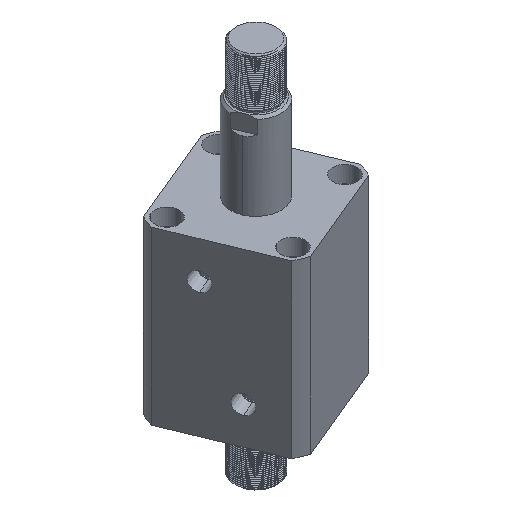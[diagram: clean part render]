
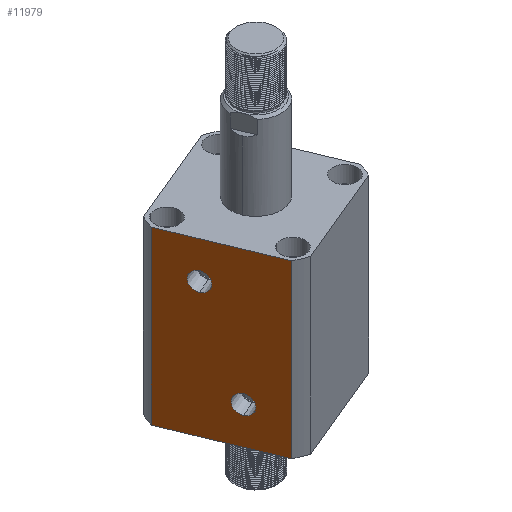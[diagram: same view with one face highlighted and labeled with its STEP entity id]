
A CAD part, isometric view. The second image highlights one B-rep face of the part: STEP entity #11979.
In plain terms, the highlighted planar face has unit normal (-0.924, -0.383, 0) as drawn and (0, -1, 0) by its records, which use the part's own axes.
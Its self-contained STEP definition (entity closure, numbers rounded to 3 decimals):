
#205 = VECTOR ( 'NONE', #25755, 1000. ) ;
#259 = CIRCLE ( 'NONE', #2878, 8.428 ) ;
#320 = CARTESIAN_POINT ( 'NONE',  ( 47.971, -57., 153. ) ) ;
#2073 = VERTEX_POINT ( 'NONE', #22167 ) ;
#2310 = DIRECTION ( 'NONE',  ( 1., 0., 0. ) ) ;
#2559 = CIRCLE ( 'NONE', #12633, 8.428 ) ;
#2621 = EDGE_LOOP ( 'NONE', ( #8334, #3618 ) ) ;
#2734 = CARTESIAN_POINT ( 'NONE',  ( -47.971, -57., -147. ) ) ;
#2878 = AXIS2_PLACEMENT_3D ( 'NONE', #11239, #25348, #13260 ) ;
#3249 = LINE ( 'NONE', #12378, #24036 ) ;
#3618 = ORIENTED_EDGE ( 'NONE', *, *, #13286, .F. ) ;
#4162 = CARTESIAN_POINT ( 'NONE',  ( -15., -57., 120. ) ) ;
#5525 = ORIENTED_EDGE ( 'NONE', *, *, #8023, .F. ) ;
#5580 = LINE ( 'NONE', #9633, #205 ) ;
#5643 = FACE_BOUND ( 'NONE', #25670, .T. ) ;
#6164 = CARTESIAN_POINT ( 'NONE',  ( 15., -57., 24.572 ) ) ;
#6199 = DIRECTION ( 'NONE',  ( 0., 0., -1. ) ) ;
#7011 = VERTEX_POINT ( 'NONE', #6164 ) ;
#7103 = CARTESIAN_POINT ( 'NONE',  ( 15., -57., 41.428 ) ) ;
#7429 = EDGE_CURVE ( 'NONE', #13733, #21841, #12369, .T. ) ;
#7590 = PLANE ( 'NONE',  #9794 ) ;
#7669 = CARTESIAN_POINT ( 'NONE',  ( -57., -57., 153. ) ) ;
#8023 = EDGE_CURVE ( 'NONE', #20907, #21841, #3249, .T. ) ;
#8254 = VERTEX_POINT ( 'NONE', #7103 ) ;
#8297 = CARTESIAN_POINT ( 'NONE',  ( -57., -57., 0. ) ) ;
#8334 = ORIENTED_EDGE ( 'NONE', *, *, #21606, .F. ) ;
#9221 = DIRECTION ( 'NONE',  ( 0., -1., 0. ) ) ;
#9633 = CARTESIAN_POINT ( 'NONE',  ( -57., -57., 153. ) ) ;
#9725 = DIRECTION ( 'NONE',  ( 0., 1., 0. ) ) ;
#9794 = AXIS2_PLACEMENT_3D ( 'NONE', #7669, #9725, #23802 ) ;
#10354 = DIRECTION ( 'NONE',  ( 0., 0., -1. ) ) ;
#10581 = EDGE_CURVE ( 'NONE', #2073, #15292, #2559, .T. ) ;
#11239 = CARTESIAN_POINT ( 'NONE',  ( 15., -57., 33. ) ) ;
#11323 = VECTOR ( 'NONE', #12847, 1000. ) ;
#11621 = CIRCLE ( 'NONE', #22207, 8.428 ) ;
#11947 = DIRECTION ( 'NONE',  ( 0., -1., 0. ) ) ;
#11979 = ADVANCED_FACE ( 'NONE', ( #5643, #22965, #21717 ), #7590, .F. ) ;
#12369 = LINE ( 'NONE', #8297, #13004 ) ;
#12378 = CARTESIAN_POINT ( 'NONE',  ( 47.971, -57., -147. ) ) ;
#12454 = EDGE_CURVE ( 'NONE', #13733, #13656, #16667, .T. ) ;
#12633 = AXIS2_PLACEMENT_3D ( 'NONE', #4162, #18260, #6199 ) ;
#12847 = DIRECTION ( 'NONE',  ( 0., 0., 1. ) ) ;
#13004 = VECTOR ( 'NONE', #2310, 1000. ) ;
#13074 = ORIENTED_EDGE ( 'NONE', *, *, #10581, .F. ) ;
#13260 = DIRECTION ( 'NONE',  ( 0., 0., -1. ) ) ;
#13286 = EDGE_CURVE ( 'NONE', #8254, #7011, #259, .T. ) ;
#13609 = AXIS2_PLACEMENT_3D ( 'NONE', #24008, #11947, #26069 ) ;
#13656 = VERTEX_POINT ( 'NONE', #19671 ) ;
#13733 = VERTEX_POINT ( 'NONE', #17877 ) ;
#14334 = ORIENTED_EDGE ( 'NONE', *, *, #12454, .F. ) ;
#15200 = EDGE_LOOP ( 'NONE', ( #14334, #15617, #5525, #21596 ) ) ;
#15292 = VERTEX_POINT ( 'NONE', #16381 ) ;
#15617 = ORIENTED_EDGE ( 'NONE', *, *, #7429, .T. ) ;
#16381 = CARTESIAN_POINT ( 'NONE',  ( -15., -57., 111.572 ) ) ;
#16667 = LINE ( 'NONE', #2734, #11323 ) ;
#17784 = ORIENTED_EDGE ( 'NONE', *, *, #21262, .F. ) ;
#17877 = CARTESIAN_POINT ( 'NONE',  ( -47.971, -57., 0. ) ) ;
#18260 = DIRECTION ( 'NONE',  ( 0., -1., 0. ) ) ;
#19671 = CARTESIAN_POINT ( 'NONE',  ( -47.971, -57., 153. ) ) ;
#20907 = VERTEX_POINT ( 'NONE', #320 ) ;
#21262 = EDGE_CURVE ( 'NONE', #15292, #2073, #11621, .T. ) ;
#21288 = CARTESIAN_POINT ( 'NONE',  ( -15., -57., 120. ) ) ;
#21596 = ORIENTED_EDGE ( 'NONE', *, *, #23460, .F. ) ;
#21606 = EDGE_CURVE ( 'NONE', #7011, #8254, #24526, .T. ) ;
#21717 = FACE_OUTER_BOUND ( 'NONE', #15200, .T. ) ;
#21841 = VERTEX_POINT ( 'NONE', #22594 ) ;
#22167 = CARTESIAN_POINT ( 'NONE',  ( -15., -57., 128.428 ) ) ;
#22207 = AXIS2_PLACEMENT_3D ( 'NONE', #21288, #9221, #23319 ) ;
#22594 = CARTESIAN_POINT ( 'NONE',  ( 47.971, -57., 0. ) ) ;
#22965 = FACE_BOUND ( 'NONE', #2621, .T. ) ;
#23319 = DIRECTION ( 'NONE',  ( 0., 0., -1. ) ) ;
#23460 = EDGE_CURVE ( 'NONE', #13656, #20907, #5580, .T. ) ;
#23802 = DIRECTION ( 'NONE',  ( 0., 0., 1. ) ) ;
#24008 = CARTESIAN_POINT ( 'NONE',  ( 15., -57., 33. ) ) ;
#24036 = VECTOR ( 'NONE', #10354, 1000. ) ;
#24526 = CIRCLE ( 'NONE', #13609, 8.428 ) ;
#25348 = DIRECTION ( 'NONE',  ( 0., -1., 0. ) ) ;
#25670 = EDGE_LOOP ( 'NONE', ( #17784, #13074 ) ) ;
#25755 = DIRECTION ( 'NONE',  ( 1., 0., 0. ) ) ;
#26069 = DIRECTION ( 'NONE',  ( 0., 0., -1. ) ) ;
